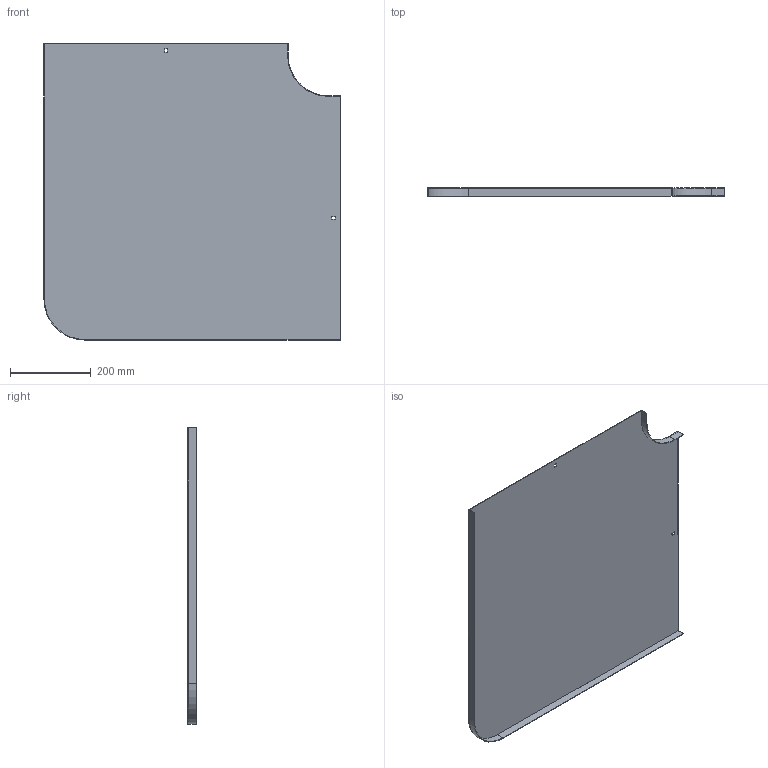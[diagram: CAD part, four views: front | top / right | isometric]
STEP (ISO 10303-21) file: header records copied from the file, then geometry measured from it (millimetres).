
FILE_DESCRIPTION (( 'STEP AP214' ), '1' );
FILE_NAME ('10G1P600.step', '2025-02-21T12:46:44', ( '' ), ( '' ), 'SwSTEP 2.0', 'SolidWorks 2023', '' );
FILE_SCHEMA (( 'AUTOMOTIVE_DESIGN' ));
Length unit declared in the file: millimetre
Products named in the file (1): 10G1P600
Bounding box: 735.5 x 20 x 735.5 mm (x, y, z)
Volume: 831873.3 mm3; surface area: 1113652.6 mm2
Topology: 1 solids, 1 shells, 26 faces, 72 edges, 48 vertices
Faces by surface type: plane 22, cylinder 4
Entity records: 855 total; most frequent: CARTESIAN_POINT 147, ORIENTED_EDGE 144, DIRECTION 134, EDGE_CURVE 72, VECTOR 64, LINE 64, VERTEX_POINT 48, AXIS2_PLACEMENT_3D 35
